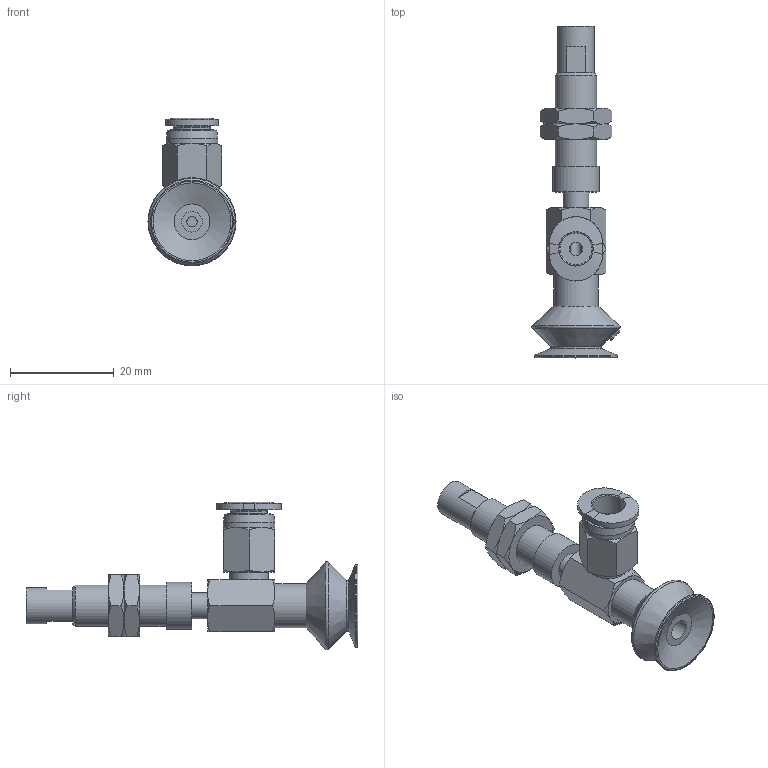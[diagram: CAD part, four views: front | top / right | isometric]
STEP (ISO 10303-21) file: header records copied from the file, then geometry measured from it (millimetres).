
FILE_DESCRIPTION(('STEP AP203'),'1');
FILE_NAME('-O.stp','2025-04-01T08:42:52',(' '),(' '),'Spatial InterOp 3D',' ',' ');
FILE_SCHEMA(('CONFIG_CONTROL_DESIGN'));
Length unit declared in the file: millimetre
Products named in the file (9): BNABPBYS-15A-3-※-O; CONNECTOR-15A-3-PB; Nut-15A-S-PB; NAPBTS-15A-3--F; NAPBTS-15A-3--M; BPBG-15A-※; __27; BPBG-15A; PC-C_06-M5
Assembly tree (9 placements, depth 3):
  BNABPBYS-15A-3-※-O
    CONNECTOR-15A-3-PB
    Nut-15A-S-PB  x2
    NAPBTS-15A-3--F
    NAPBTS-15A-3--M
    BPBG-15A-※
      __27
      BPBG-15A
    PC-C_06-M5
Bounding box: 17 x 64 x 28.48 mm (x, y, z)
Volume: 4477.7 mm3; surface area: 5914.9 mm2
Topology: 7 solids, 10 shells, 195 faces, 410 edges, 250 vertices
Faces by surface type: cone 71, plane 69, cylinder 27, torus 13, bspline 12, revolution 3
Full cylindrical faces by diameter (mm): 2 x1, 4 x5, 4.134 x2, 5 x4, 6 x2, 7 x2, 7.188 x2, 7.4 x1, 8 x1, 8.2 x1, 8.5 x1, 9 x1, 10 x1, 16 x1
Entity records: 6237 total; most frequent: CARTESIAN_POINT 2562, DIRECTION 656, ORIENTED_EDGE 582, AXIS2_PLACEMENT_3D 294, EDGE_CURVE 293, EDGE_LOOP 255, VERTEX_POINT 208, FACE_OUTER_BOUND 149
